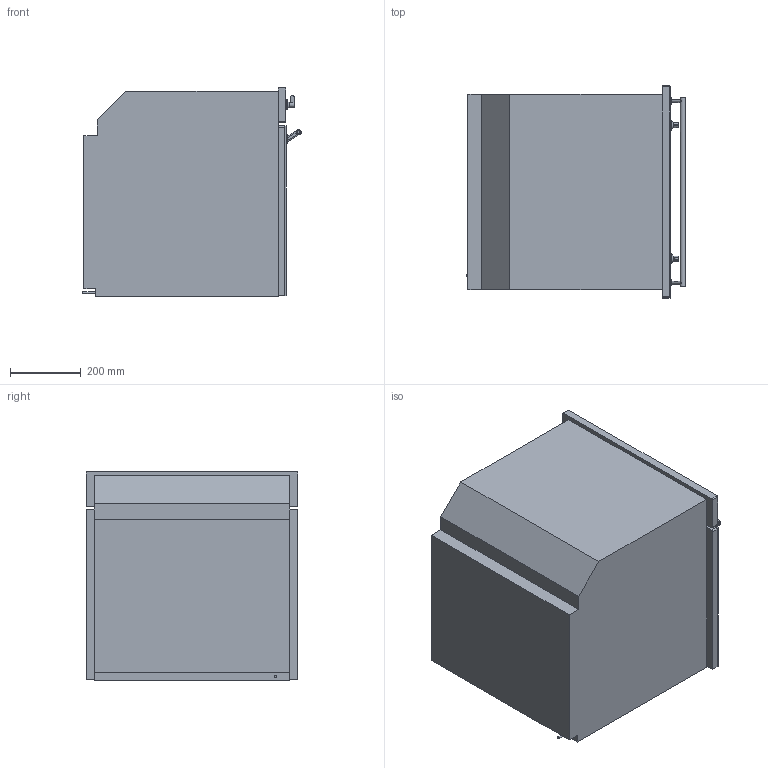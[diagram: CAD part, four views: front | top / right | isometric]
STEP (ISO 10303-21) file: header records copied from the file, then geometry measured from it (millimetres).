
FILE_DESCRIPTION(/* description */ (''),/* implementation_level */ '2;1');
FILE_NAME(/* name */ 'SO6302M2X.stp',/* time_stamp */ '2021-06-19T11:54:09+02:00',/* author */ (''),/* organization */ (''),/* preprocessor_version */ 'ST-DEVELOPER v16',/* originating_system */ 'SIEMENS PLM Software NX 11.0',/* authorisation */ '');
FILE_SCHEMA (('AUTOMOTIVE_DESIGN { 1 0 10303 214 3 1 1 1 }'));
Length unit declared in the file: millimetre
Products named in the file (1): mart47083575xs1c
Bounding box: 615.5 x 597 x 592 mm (x, y, z)
Volume: 177981110.2 mm3; surface area: 3499746.6 mm2
Topology: 22 solids, 22 shells, 214 faces, 470 edges, 314 vertices
Faces by surface type: plane 141, cylinder 60, extrusion 11, cone 2
Full cylindrical faces by diameter (mm): 4 x2, 4.608 x6, 5 x2, 6 x1, 8.5 x2, 12 x2, 14 x3, 15 x2, 20 x2, 28 x2
Entity records: 6112 total; most frequent: CARTESIAN_POINT 1301, DIRECTION 947, ORIENTED_EDGE 870, EDGE_CURVE 435, AXIS2_PLACEMENT_3D 328, VERTEX_POINT 308, VECTOR 291, LINE 280
